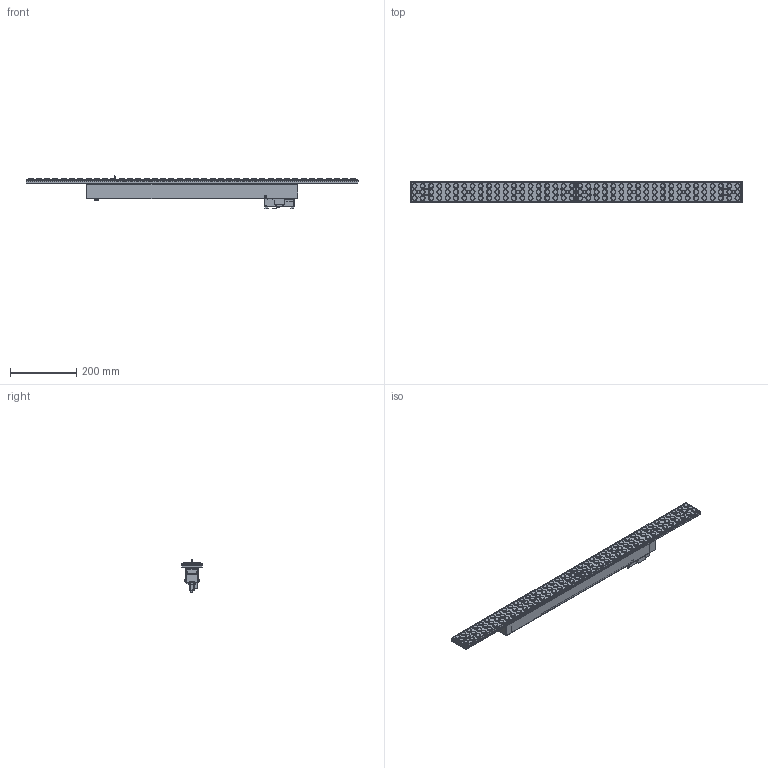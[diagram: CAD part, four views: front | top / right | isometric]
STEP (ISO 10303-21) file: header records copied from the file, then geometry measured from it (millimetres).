
FILE_DESCRIPTION(/* description */ (''),/* implementation_level */ '2;1');
FILE_NAME(/* name */ 'SOTTILE_TRACK_GDO_SST10.stp',/* time_stamp */ '2025-09-29T10:13:07+02:00',/* author */ ('gian.noche'),/* organization */ (''),/* preprocessor_version */ 'ST-DEVELOPER v19.2',/* originating_system */ 'Autodesk Inventor 2023',/* authorisation */ '');
FILE_SCHEMA (('AUTOMOTIVE_DESIGN { 1 0 10303 214 3 1 1 }'));
Products named in the file (1): IDP_225_SOTTILE_TRACK_GDO_1000_Semplifica_1
Bounding box: 1001.8 x 65 x 102.24 mm (x, y, z)
Volume: 795207.2 mm3; surface area: 654124.7 mm2
Topology: 2 solids, 2 shells, 1718 faces, 4378 edges, 2794 vertices
Faces by surface type: plane 920, cylinder 552, torus 143, bspline 93, cone 10
Full cylindrical faces by diameter (mm): 3.9 x2, 4.4 x3, 4.5 x3, 5.6 x1, 8 x4, 10 x2, 11.5 x1, 15 x120, 16.5 x4, 23.319 x1, 32 x1
Entity records: 58054 total; most frequent: CARTESIAN_POINT 15919, DIRECTION 8964, ORIENTED_EDGE 8742, EDGE_CURVE 4371, AXIS2_PLACEMENT_3D 3173, VERTEX_POINT 2793, LINE 2618, VECTOR 2618
